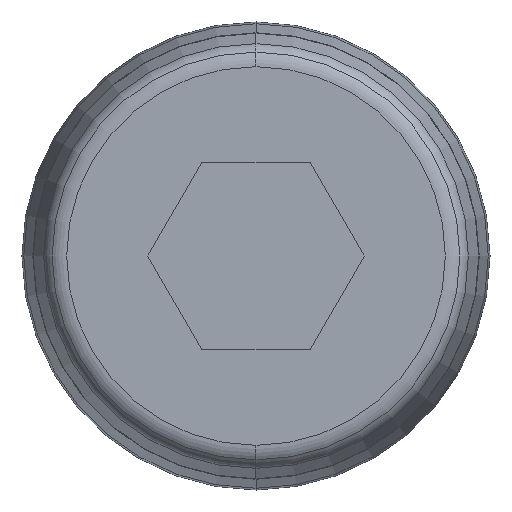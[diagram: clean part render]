
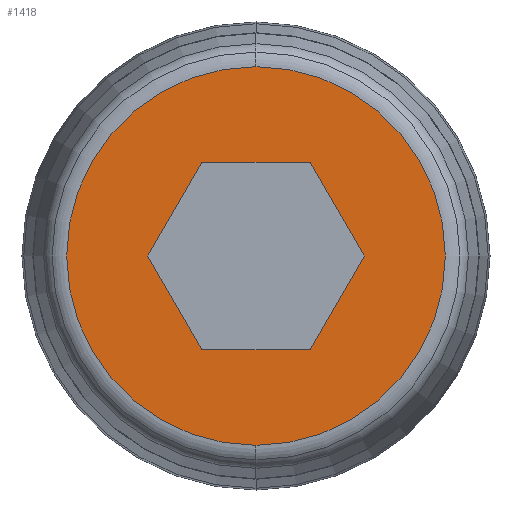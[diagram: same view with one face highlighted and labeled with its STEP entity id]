
A CAD part, left-side view. The second image highlights one B-rep face of the part: STEP entity #1418.
In plain terms, the highlighted planar face has unit normal (-1, 0, 0).
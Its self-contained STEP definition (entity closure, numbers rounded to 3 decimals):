
#451=CARTESIAN_POINT('',(0.,0.,0.));
#452=DIRECTION('',(-1.,0.,0.));
#453=DIRECTION('',(0.,0.,1.));
#454=AXIS2_PLACEMENT_3D('',#451,#452,#453);
#456=CARTESIAN_POINT('',(0.,0.,0.));
#457=DIRECTION('',(-1.,0.,0.));
#458=DIRECTION('',(0.,0.,-1.));
#459=AXIS2_PLACEMENT_3D('',#456,#457,#458);
#461=DIRECTION('',(0.,-1.,0.));
#462=VECTOR('',#461,4.619);
#463=CARTESIAN_POINT('',(0.,2.309,-4.));
#464=LINE('',#463,#462);
#465=DIRECTION('',(0.,-0.5,0.866));
#466=VECTOR('',#465,4.619);
#467=CARTESIAN_POINT('',(0.,-2.309,-4.));
#468=LINE('',#467,#466);
#469=DIRECTION('',(0.,0.5,0.866));
#470=VECTOR('',#469,4.619);
#471=CARTESIAN_POINT('',(0.,-4.619,0.));
#472=LINE('',#471,#470);
#473=DIRECTION('',(0.,1.,0.));
#474=VECTOR('',#473,4.619);
#475=CARTESIAN_POINT('',(0.,-2.309,4.));
#476=LINE('',#475,#474);
#477=DIRECTION('',(0.,0.5,-0.866));
#478=VECTOR('',#477,4.619);
#479=CARTESIAN_POINT('',(0.,2.309,4.));
#480=LINE('',#479,#478);
#481=DIRECTION('',(0.,-0.5,-0.866));
#482=VECTOR('',#481,4.619);
#483=CARTESIAN_POINT('',(0.,4.619,0.));
#484=LINE('',#483,#482);
#569=CARTESIAN_POINT('',(0.,0.,-8.08));
#570=VERTEX_POINT('',#569);
#571=CARTESIAN_POINT('',(0.,0.,8.08));
#572=VERTEX_POINT('',#571);
#681=CARTESIAN_POINT('',(0.,2.309,-4.));
#682=CARTESIAN_POINT('',(0.,-2.309,-4.));
#683=VERTEX_POINT('',#681);
#684=VERTEX_POINT('',#682);
#685=CARTESIAN_POINT('',(0.,-4.619,0.));
#686=VERTEX_POINT('',#685);
#687=CARTESIAN_POINT('',(0.,-2.309,4.));
#688=VERTEX_POINT('',#687);
#689=CARTESIAN_POINT('',(0.,2.309,4.));
#690=VERTEX_POINT('',#689);
#691=CARTESIAN_POINT('',(0.,4.619,0.));
#692=VERTEX_POINT('',#691);
#1394=CARTESIAN_POINT('',(0.,0.,0.));
#1395=DIRECTION('',(1.,0.,0.));
#1396=DIRECTION('',(0.,0.,-1.));
#1397=AXIS2_PLACEMENT_3D('',#1394,#1395,#1396);
#1398=PLANE('',#1397);
#1400=ORIENTED_EDGE('',*,*,#1399,.F.);
#1401=ORIENTED_EDGE('',*,*,#1384,.F.);
#1402=EDGE_LOOP('',(#1400,#1401));
#1403=FACE_OUTER_BOUND('',#1402,.F.);
#1405=ORIENTED_EDGE('',*,*,#1404,.T.);
#1407=ORIENTED_EDGE('',*,*,#1406,.T.);
#1409=ORIENTED_EDGE('',*,*,#1408,.T.);
#1411=ORIENTED_EDGE('',*,*,#1410,.T.);
#1413=ORIENTED_EDGE('',*,*,#1412,.T.);
#1415=ORIENTED_EDGE('',*,*,#1414,.T.);
#1416=EDGE_LOOP('',(#1405,#1407,#1409,#1411,#1413,#1415));
#1417=FACE_BOUND('',#1416,.F.);
#1418=ADVANCED_FACE('',(#1403,#1417),#1398,.F.);
#455=CIRCLE('',#454,8.08);
#460=CIRCLE('',#459,8.08);
#1384=EDGE_CURVE('',#570,#572,#460,.T.);
#1399=EDGE_CURVE('',#572,#570,#455,.T.);
#1404=EDGE_CURVE('',#683,#684,#464,.T.);
#1406=EDGE_CURVE('',#684,#686,#468,.T.);
#1408=EDGE_CURVE('',#686,#688,#472,.T.);
#1410=EDGE_CURVE('',#688,#690,#476,.T.);
#1412=EDGE_CURVE('',#690,#692,#480,.T.);
#1414=EDGE_CURVE('',#692,#683,#484,.T.);
